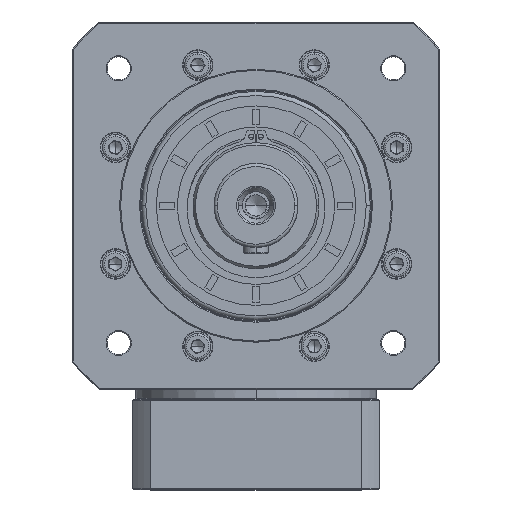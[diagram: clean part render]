
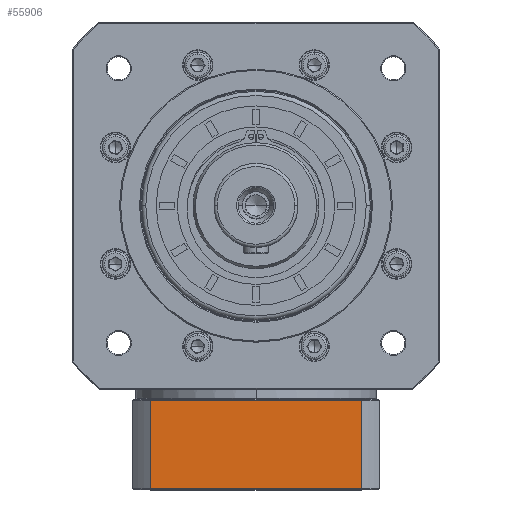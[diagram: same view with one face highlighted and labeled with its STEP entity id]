
A CAD part, top view. The second image highlights one B-rep face of the part: STEP entity #55906.
In plain terms, the highlighted planar face has unit normal (0, 0, 1).
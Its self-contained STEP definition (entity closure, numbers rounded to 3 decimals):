
#293 = VECTOR ( 'NONE', #26672, 1000. ) ;
#7764 = DIRECTION ( 'NONE',  ( 0., 0., -1. ) ) ;
#9007 = VECTOR ( 'NONE', #77138, 1000. ) ;
#12872 = CARTESIAN_POINT ( 'NONE',  ( -235.75, -186.541, 76.611 ) ) ;
#16009 = LINE ( 'NONE', #53416, #293 ) ;
#20101 = EDGE_CURVE ( 'NONE', #146556, #141262, #16009, .T. ) ;
#21047 = VECTOR ( 'NONE', #30480, 1000. ) ;
#24524 = VERTEX_POINT ( 'NONE', #12872 ) ;
#26672 = DIRECTION ( 'NONE',  ( 0., -1., 0. ) ) ;
#30480 = DIRECTION ( 'NONE',  ( 1., 0., 0. ) ) ;
#40737 = EDGE_LOOP ( 'NONE', ( #43697, #146289, #84845, #70370 ) ) ;
#43697 = ORIENTED_EDGE ( 'NONE', *, *, #20101, .F. ) ;
#46526 = EDGE_CURVE ( 'NONE', #141262, #24524, #87807, .T. ) ;
#52200 = VERTEX_POINT ( 'NONE', #145474 ) ;
#53416 = CARTESIAN_POINT ( 'NONE',  ( -135.247, 77.354, 76.611 ) ) ;
#54288 = LINE ( 'NONE', #103994, #21047 ) ;
#54788 = VECTOR ( 'NONE', #104679, 1000. ) ;
#55906 = ADVANCED_FACE ( 'NONE', ( #156703 ), #68737, .F. ) ;
#56282 = DIRECTION ( 'NONE',  ( -1., 0., 0. ) ) ;
#68737 = PLANE ( 'NONE',  #110026 ) ;
#70370 = ORIENTED_EDGE ( 'NONE', *, *, #46526, .F. ) ;
#77138 = DIRECTION ( 'NONE',  ( 0., 1., 0. ) ) ;
#80703 = CARTESIAN_POINT ( 'NONE',  ( -244.499, -187.041, 76.611 ) ) ;
#82205 = CARTESIAN_POINT ( 'NONE',  ( -135.247, -144.541, 76.611 ) ) ;
#84845 = ORIENTED_EDGE ( 'NONE', *, *, #102210, .F. ) ;
#87807 = LINE ( 'NONE', #130772, #54788 ) ;
#102210 = EDGE_CURVE ( 'NONE', #24524, #52200, #159028, .T. ) ;
#103994 = CARTESIAN_POINT ( 'NONE',  ( -244.499, -144.541, 76.611 ) ) ;
#104679 = DIRECTION ( 'NONE',  ( -1., 0., 0. ) ) ;
#110026 = AXIS2_PLACEMENT_3D ( 'NONE', #80703, #7764, #56282 ) ;
#116581 = EDGE_CURVE ( 'NONE', #52200, #146556, #54288, .T. ) ;
#126415 = CARTESIAN_POINT ( 'NONE',  ( -135.247, -186.541, 76.611 ) ) ;
#130772 = CARTESIAN_POINT ( 'NONE',  ( -244.499, -186.541, 76.611 ) ) ;
#141262 = VERTEX_POINT ( 'NONE', #126415 ) ;
#145474 = CARTESIAN_POINT ( 'NONE',  ( -235.75, -144.541, 76.611 ) ) ;
#146289 = ORIENTED_EDGE ( 'NONE', *, *, #116581, .F. ) ;
#146556 = VERTEX_POINT ( 'NONE', #82205 ) ;
#156703 = FACE_OUTER_BOUND ( 'NONE', #40737, .T. ) ;
#159028 = LINE ( 'NONE', #160587, #9007 ) ;
#160587 = CARTESIAN_POINT ( 'NONE',  ( -235.75, -187.041, 76.611 ) ) ;
